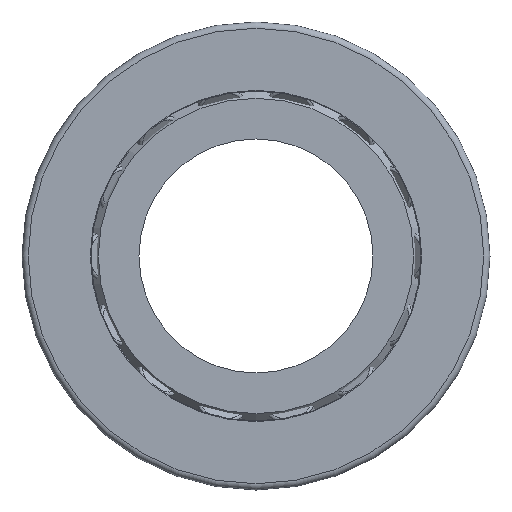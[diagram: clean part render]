
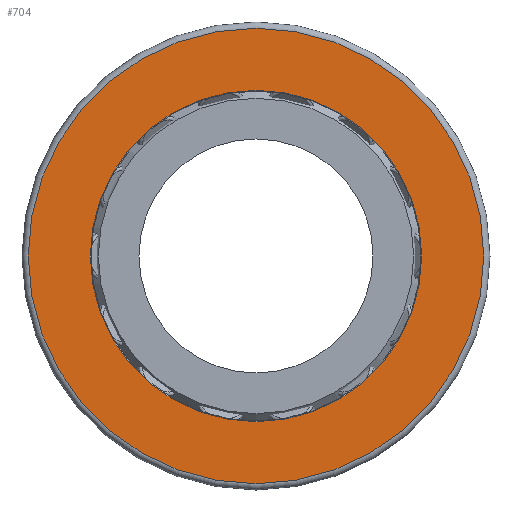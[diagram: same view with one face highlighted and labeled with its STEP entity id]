
A CAD part, front view. The second image highlights one B-rep face of the part: STEP entity #704.
In plain terms, the highlighted planar face has unit normal (0, -1, 0).
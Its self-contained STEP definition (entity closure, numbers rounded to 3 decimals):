
#127=PLANE('',#767);
#166=FACE_BOUND('',#285,.T.);
#230=FACE_OUTER_BOUND('',#284,.T.);
#284=EDGE_LOOP('',(#576));
#285=EDGE_LOOP('',(#577));
#397=CIRCLE('',#766,106.2);
#398=CIRCLE('',#768,146.);
#443=VERTEX_POINT('',#1159);
#444=VERTEX_POINT('',#1162);
#506=EDGE_CURVE('',#443,#443,#397,.T.);
#507=EDGE_CURVE('',#444,#444,#398,.T.);
#576=ORIENTED_EDGE('',*,*,#507,.F.);
#577=ORIENTED_EDGE('',*,*,#506,.F.);
#704=ADVANCED_FACE('',(#230,#166),#127,.T.);
#766=AXIS2_PLACEMENT_3D('',#1160,#895,#896);
#767=AXIS2_PLACEMENT_3D('',#1161,#897,#898);
#768=AXIS2_PLACEMENT_3D('',#1163,#899,#900);
#895=DIRECTION('center_axis',(0.,-1.,0.));
#896=DIRECTION('ref_axis',(-1.,0.,0.));
#897=DIRECTION('center_axis',(0.,-1.,0.));
#898=DIRECTION('ref_axis',(0.,0.,-1.));
#899=DIRECTION('center_axis',(0.,1.,0.));
#900=DIRECTION('ref_axis',(-1.,0.,0.));
#1159=CARTESIAN_POINT('',(106.2,-45.,0.));
#1160=CARTESIAN_POINT('Origin',(0.,-45.,0.));
#1161=CARTESIAN_POINT('Origin',(105.75,-45.,0.));
#1162=CARTESIAN_POINT('',(146.,-45.,0.));
#1163=CARTESIAN_POINT('Origin',(0.,-45.,0.));
